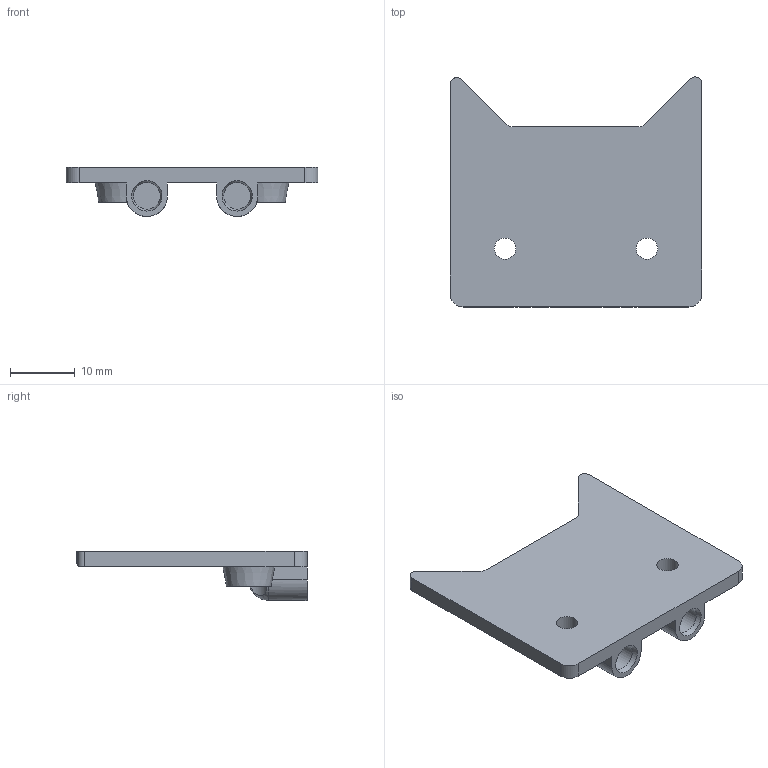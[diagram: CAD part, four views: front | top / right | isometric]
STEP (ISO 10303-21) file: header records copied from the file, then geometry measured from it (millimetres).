
FILE_DESCRIPTION(/* description */ (''),/* implementation_level */ '2;1');
FILE_NAME(/* name */ 'HMG7-Creality-Spider-500-Skirt.step',/* time_stamp */ '2022-11-01T21:56:39-07:00',/* author */ (''),/* organization */ (''),/* preprocessor_version */ 'ST-DEVELOPER v19.2',/* originating_system */ 'Autodesk Translation Framework v11.17.0.187',/* authorisation */ '');
FILE_SCHEMA (('AUTOMOTIVE_DESIGN { 1 0 10303 214 3 1 1 }'));
Length unit declared in the file: millimetre
Products named in the file (3): GEN_7_1.5; Creality_Spider_500; Spider_500_Skirt
Assembly tree (2 placements, depth 3):
  GEN_7_1.5
    Creality_Spider_500
      Spider_500_Skirt
Bounding box: 39 x 35.66 x 7.6 mm (x, y, z)
Volume: 3150.6 mm3; surface area: 3231.6 mm2
Topology: 1 solids, 1 shells, 49 faces, 127 edges, 82 vertices
Faces by surface type: plane 23, cylinder 18, cone 6, bspline 2
Full cylindrical faces by diameter (mm): 3.3 x2, 4.15 x2, 6 x2
Entity records: 1674 total; most frequent: CARTESIAN_POINT 375, DIRECTION 265, ORIENTED_EDGE 254, EDGE_CURVE 127, AXIS2_PLACEMENT_3D 100, VERTEX_POINT 82, LINE 65, VECTOR 65
